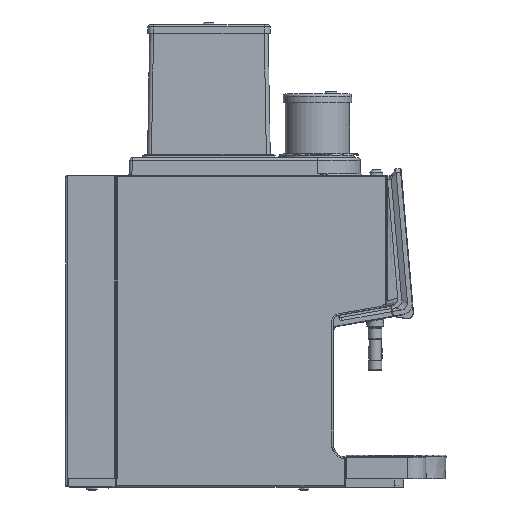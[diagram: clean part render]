
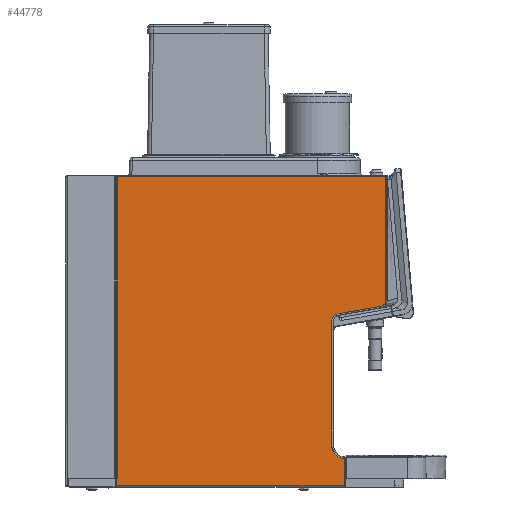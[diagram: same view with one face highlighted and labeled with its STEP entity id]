
A CAD part, left-side view. The second image highlights one B-rep face of the part: STEP entity #44778.
In plain terms, the highlighted planar face has unit normal (-1, 0, 0).
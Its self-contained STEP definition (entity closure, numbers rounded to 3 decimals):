
#3011=CIRCLE('',#48294,22.95);
#3012=CIRCLE('',#48295,12.95);
#3013=CIRCLE('',#48296,8.782);
#3014=CIRCLE('',#48297,1.5);
#5155=FACE_OUTER_BOUND('',#7878,.T.);
#7878=EDGE_LOOP('',(#33893,#33894,#33895,#33896,#33897,#33898,#33899,#33900,
#33901,#33902,#33903,#33904,#33905,#33906,#33907));
#11869=LINE('',#73739,#15568);
#11873=LINE('',#73749,#15572);
#11875=LINE('',#73753,#15574);
#11876=LINE('',#73757,#15575);
#11877=LINE('',#73761,#15576);
#11878=LINE('',#73765,#15577);
#11879=LINE('',#73767,#15578);
#11880=LINE('',#73769,#15579);
#11881=LINE('',#73771,#15580);
#11882=LINE('',#73773,#15581);
#11883=LINE('',#73775,#15582);
#15568=VECTOR('',#56232,10.);
#15572=VECTOR('',#56240,10.);
#15574=VECTOR('',#56244,10.);
#15575=VECTOR('',#56247,10.);
#15576=VECTOR('',#56250,10.);
#15577=VECTOR('',#56253,10.);
#15578=VECTOR('',#56254,10.);
#15579=VECTOR('',#56255,10.);
#15580=VECTOR('',#56256,10.);
#15581=VECTOR('',#56257,10.);
#15582=VECTOR('',#56258,10.);
#19596=VERTEX_POINT('',#73735);
#19598=VERTEX_POINT('',#73738);
#19602=VERTEX_POINT('',#73747);
#19603=VERTEX_POINT('',#73752);
#19604=VERTEX_POINT('',#73754);
#19605=VERTEX_POINT('',#73756);
#19606=VERTEX_POINT('',#73758);
#19607=VERTEX_POINT('',#73760);
#19608=VERTEX_POINT('',#73762);
#19609=VERTEX_POINT('',#73764);
#19610=VERTEX_POINT('',#73766);
#19611=VERTEX_POINT('',#73768);
#19612=VERTEX_POINT('',#73770);
#19613=VERTEX_POINT('',#73772);
#19614=VERTEX_POINT('',#73774);
#24809=EDGE_CURVE('',#19598,#19596,#11869,.T.);
#24814=EDGE_CURVE('',#19602,#19596,#11873,.T.);
#24816=EDGE_CURVE('',#19602,#19603,#11875,.T.);
#24817=EDGE_CURVE('',#19603,#19604,#3011,.T.);
#24818=EDGE_CURVE('',#19604,#19605,#11876,.T.);
#24819=EDGE_CURVE('',#19605,#19606,#3012,.T.);
#24820=EDGE_CURVE('',#19606,#19607,#11877,.T.);
#24821=EDGE_CURVE('',#19607,#19608,#3013,.T.);
#24822=EDGE_CURVE('',#19608,#19609,#11878,.T.);
#24823=EDGE_CURVE('',#19610,#19609,#11879,.T.);
#24824=EDGE_CURVE('',#19611,#19610,#11880,.T.);
#24825=EDGE_CURVE('',#19611,#19612,#11881,.T.);
#24826=EDGE_CURVE('',#19612,#19613,#11882,.T.);
#24827=EDGE_CURVE('',#19613,#19614,#11883,.T.);
#24828=EDGE_CURVE('',#19614,#19598,#3014,.T.);
#33893=ORIENTED_EDGE('',*,*,#24814,.F.);
#33894=ORIENTED_EDGE('',*,*,#24816,.T.);
#33895=ORIENTED_EDGE('',*,*,#24817,.T.);
#33896=ORIENTED_EDGE('',*,*,#24818,.T.);
#33897=ORIENTED_EDGE('',*,*,#24819,.T.);
#33898=ORIENTED_EDGE('',*,*,#24820,.T.);
#33899=ORIENTED_EDGE('',*,*,#24821,.T.);
#33900=ORIENTED_EDGE('',*,*,#24822,.T.);
#33901=ORIENTED_EDGE('',*,*,#24823,.F.);
#33902=ORIENTED_EDGE('',*,*,#24824,.F.);
#33903=ORIENTED_EDGE('',*,*,#24825,.T.);
#33904=ORIENTED_EDGE('',*,*,#24826,.T.);
#33905=ORIENTED_EDGE('',*,*,#24827,.T.);
#33906=ORIENTED_EDGE('',*,*,#24828,.T.);
#33907=ORIENTED_EDGE('',*,*,#24809,.T.);
#43015=PLANE('',#48293);
#44778=ADVANCED_FACE('',(#5155),#43015,.F.);
#48293=AXIS2_PLACEMENT_3D('',#73751,#56242,#56243);
#48294=AXIS2_PLACEMENT_3D('',#73755,#56245,#56246);
#48295=AXIS2_PLACEMENT_3D('',#73759,#56248,#56249);
#48296=AXIS2_PLACEMENT_3D('',#73763,#56251,#56252);
#48297=AXIS2_PLACEMENT_3D('',#73776,#56259,#56260);
#56232=DIRECTION('',(0.,0.,-1.));
#56240=DIRECTION('',(0.,1.,0.));
#56242=DIRECTION('center_axis',(1.,0.,0.));
#56243=DIRECTION('ref_axis',(0.,0.,-1.));
#56244=DIRECTION('',(0.,0.,1.));
#56245=DIRECTION('center_axis',(1.,0.,0.));
#56246=DIRECTION('ref_axis',(0.,1.,0.));
#56247=DIRECTION('',(0.,0.,1.));
#56248=DIRECTION('center_axis',(1.,0.,0.));
#56249=DIRECTION('ref_axis',(0.,0.174,0.985));
#56250=DIRECTION('',(0.,-0.985,0.174));
#56251=DIRECTION('center_axis',(-1.,0.,0.));
#56252=DIRECTION('ref_axis',(0.,0.174,0.985));
#56253=DIRECTION('',(0.,0.,1.));
#56254=DIRECTION('',(0.,-1.,0.));
#56255=DIRECTION('',(0.,0.,1.));
#56256=DIRECTION('',(0.,-1.,0.));
#56257=DIRECTION('',(0.,0.,-1.));
#56258=DIRECTION('',(0.,1.,0.));
#56259=DIRECTION('center_axis',(-1.,0.,0.));
#56260=DIRECTION('ref_axis',(0.,0.,-1.));
#73735=CARTESIAN_POINT('',(-225.,520.,7.));
#73738=CARTESIAN_POINT('',(-225.,520.,17.5));
#73739=CARTESIAN_POINT('',(-225.,520.,135.255));
#73747=CARTESIAN_POINT('',(-225.,137.15,7.));
#73749=CARTESIAN_POINT('',(-225.,410.669,7.));
#73751=CARTESIAN_POINT('Origin',(-225.,301.337,253.011));
#73752=CARTESIAN_POINT('',(-225.,137.15,52.651));
#73753=CARTESIAN_POINT('',(-225.,137.15,130.255));
#73754=CARTESIAN_POINT('',(-225.,157.95,75.5));
#73755=CARTESIAN_POINT('Origin',(-225.,135.,75.5));
#73756=CARTESIAN_POINT('',(-225.,157.95,283.506));
#73757=CARTESIAN_POINT('',(-225.,157.95,164.255));
#73758=CARTESIAN_POINT('',(-225.,147.249,296.26));
#73759=CARTESIAN_POINT('Origin',(-225.,145.,283.506));
#73760=CARTESIAN_POINT('',(-225.,74.407,309.104));
#73761=CARTESIAN_POINT('',(-225.,225.668,282.432));
#73762=CARTESIAN_POINT('',(-225.,67.15,317.752));
#73763=CARTESIAN_POINT('Origin',(-225.,75.932,317.752));
#73764=CARTESIAN_POINT('',(-225.,67.15,526.5));
#73765=CARTESIAN_POINT('',(-225.,67.15,390.755));
#73766=CARTESIAN_POINT('',(-225.,518.,526.5));
#73767=CARTESIAN_POINT('',(-225.,453.169,526.5));
#73768=CARTESIAN_POINT('',(-225.,518.,19.5));
#73769=CARTESIAN_POINT('',(-225.,518.,526.5));
#73770=CARTESIAN_POINT('',(-225.,517.65,19.5));
#73771=CARTESIAN_POINT('',(-225.,412.344,19.5));
#73772=CARTESIAN_POINT('',(-225.,517.65,19.));
#73773=CARTESIAN_POINT('',(-225.,517.65,136.255));
#73774=CARTESIAN_POINT('',(-225.,518.5,19.));
#73775=CARTESIAN_POINT('',(-225.,409.494,19.));
#73776=CARTESIAN_POINT('Origin',(-225.,518.5,17.5));
